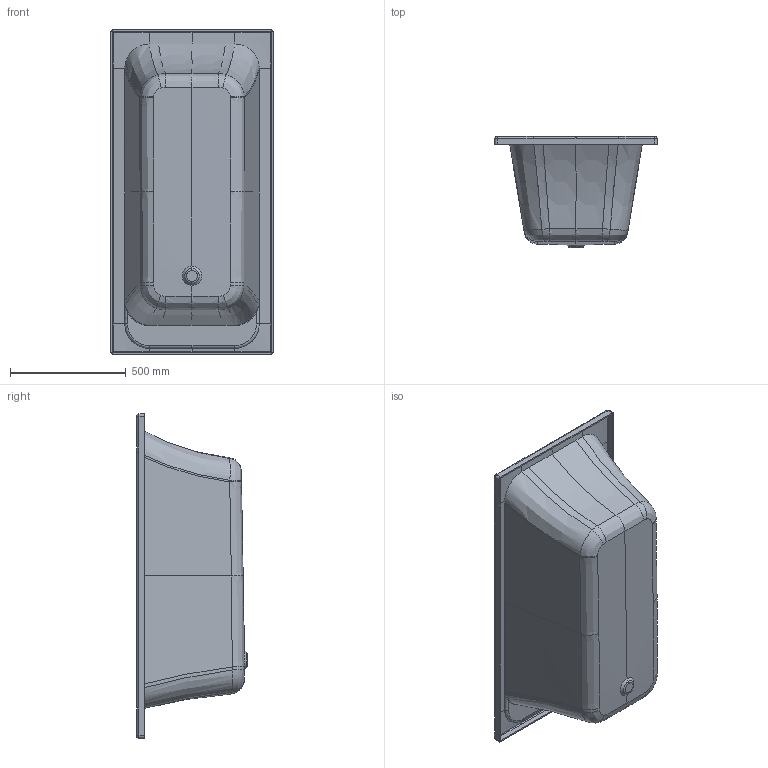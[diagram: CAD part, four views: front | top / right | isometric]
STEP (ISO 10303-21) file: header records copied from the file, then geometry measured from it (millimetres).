
FILE_DESCRIPTION((''),'2;1');
FILE_NAME('UBA157ARA2V','2020-12-07T13:39:39',('hegemanc'),('Villeroy & Boch Wellness bv'),'CREO PARAMETRIC BY PTC INC, 2019292','CREO PARAMETRIC BY PTC INC, 2019292','');
FILE_SCHEMA(('CONFIG_CONTROL_DESIGN'));
Length unit declared in the file: millimetre
Products named in the file (1): UBA157ARA2V
Bounding box: 700 x 479 x 1400 mm (x, y, z)
Volume: 12878243.2 mm3; surface area: 4317031.7 mm2
Topology: 1 solids, 1 shells, 265 faces, 616 edges, 354 vertices
Faces by surface type: bspline 222, plane 13, cylinder 8, sphere 8, cone 8, torus 6
Entity records: 22816 total; most frequent: CARTESIAN_POINT 18131, ORIENTED_EDGE 1232, EDGE_CURVE 616, DIRECTION 555, VERTEX_POINT 354, B_SPLINE_CURVE_WITH_KNOTS 317, EDGE_LOOP 266, FACE_OUTER_BOUND 265
